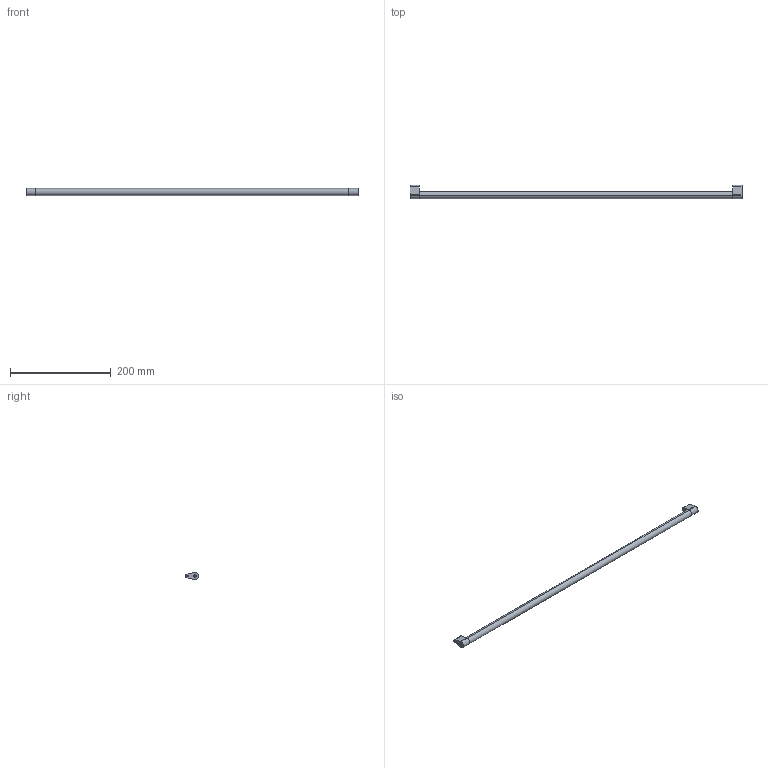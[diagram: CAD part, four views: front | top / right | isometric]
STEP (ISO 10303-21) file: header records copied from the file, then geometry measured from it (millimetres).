
FILE_DESCRIPTION (( 'STEP AP214' ), '1' );
FILE_NAME ('_Synchronisationseinheit Nova Pro KAB750_S19.step', '2010-07-08T13:58:46', ( 'grass' ), ( '' ), 'SwSTEP 2.0', 'SolidWorks 2010', '' );
FILE_SCHEMA (( 'AUTOMOTIVE_DESIGN' ));
Length unit declared in the file: millimetre
Products named in the file (1): _Synchronisationseinheit Nova Pro KAB750_S19
Bounding box: 659 x 26.5 x 14 mm (x, y, z)
Volume: 105132 mm3; surface area: 31831.3 mm2
Topology: 3 solids, 3 shells, 36 faces, 78 edges, 52 vertices
Faces by surface type: cylinder 18, plane 18
Entity records: 1050 total; most frequent: DIRECTION 188, CARTESIAN_POINT 167, ORIENTED_EDGE 156, EDGE_CURVE 78, AXIS2_PLACEMENT_3D 73, VERTEX_POINT 52, VECTOR 42, LINE 42
